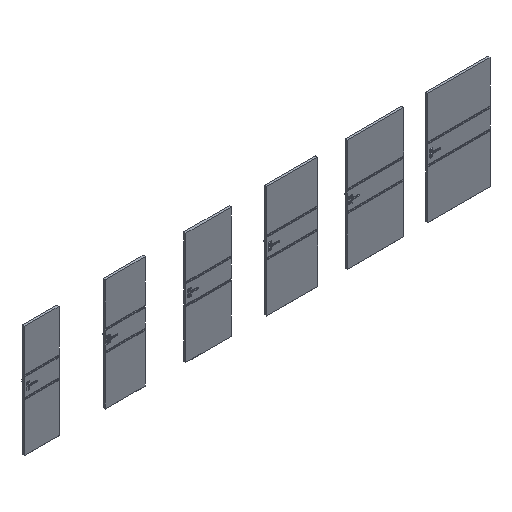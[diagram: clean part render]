
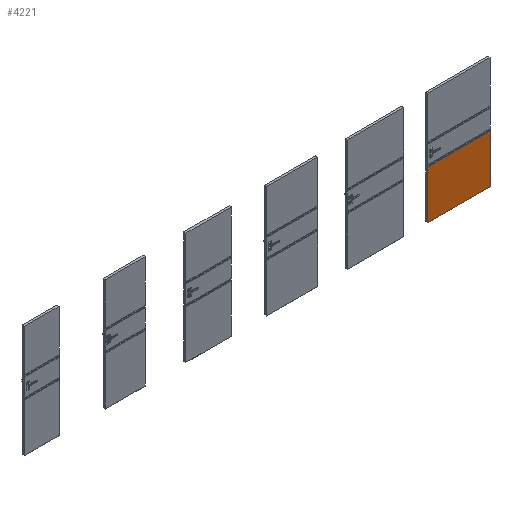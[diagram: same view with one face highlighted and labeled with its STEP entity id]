
A CAD part, isometric view. The second image highlights one B-rep face of the part: STEP entity #4221.
In plain terms, the highlighted planar face has unit normal (0, -1, 0).
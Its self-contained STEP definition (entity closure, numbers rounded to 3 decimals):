
#2781=FACE_OUTER_BOUND('',#7605,.T.);
#4221=ADVANCED_FACE('',(#2781),#4877,.F.);
#4877=PLANE('',#26298);
#7605=EDGE_LOOP('',(#14154,#14155,#14156,#14157));
#14154=ORIENTED_EDGE('',*,*,#19920,.F.);
#14155=ORIENTED_EDGE('',*,*,#19921,.T.);
#14156=ORIENTED_EDGE('',*,*,#19922,.T.);
#14157=ORIENTED_EDGE('',*,*,#19923,.F.);
#16546=VERTEX_POINT('',#48144);
#16547=VERTEX_POINT('',#48145);
#16548=VERTEX_POINT('',#48147);
#16549=VERTEX_POINT('',#48149);
#19920=EDGE_CURVE('',#16546,#16547,#21964,.T.);
#19921=EDGE_CURVE('',#16546,#16548,#21965,.T.);
#19922=EDGE_CURVE('',#16548,#16549,#21966,.T.);
#19923=EDGE_CURVE('',#16547,#16549,#21967,.T.);
#21964=LINE('',#48143,#23944);
#21965=LINE('',#48146,#23945);
#21966=LINE('',#48148,#23946);
#21967=LINE('',#48150,#23947);
#23944=VECTOR('',#32717,1.);
#23945=VECTOR('',#32718,1.);
#23946=VECTOR('',#32719,1.);
#23947=VECTOR('',#32720,1.);
#26298=AXIS2_PLACEMENT_3D('',#48151,#32721,#32722);
#32717=DIRECTION('',(1.,0.,0.));
#32718=DIRECTION('',(0.,0.,-1.));
#32719=DIRECTION('',(1.,0.,0.));
#32720=DIRECTION('',(0.,0.,-1.));
#32721=DIRECTION('',(0.,1.,0.));
#32722=DIRECTION('',(-1.,0.,0.));
#48143=CARTESIAN_POINT('',(6941.,-39.3,868.85));
#48144=CARTESIAN_POINT('',(6941.,-39.3,868.85));
#48145=CARTESIAN_POINT('',(8059.,-39.3,868.85));
#48146=CARTESIAN_POINT('',(6941.,-39.3,2017.));
#48147=CARTESIAN_POINT('',(6941.,-39.3,2.));
#48148=CARTESIAN_POINT('',(7191.,-39.3,2.));
#48149=CARTESIAN_POINT('',(8059.,-39.3,2.));
#48150=CARTESIAN_POINT('',(8059.,-39.3,2017.));
#48151=CARTESIAN_POINT('',(7191.,-39.3,2017.));
